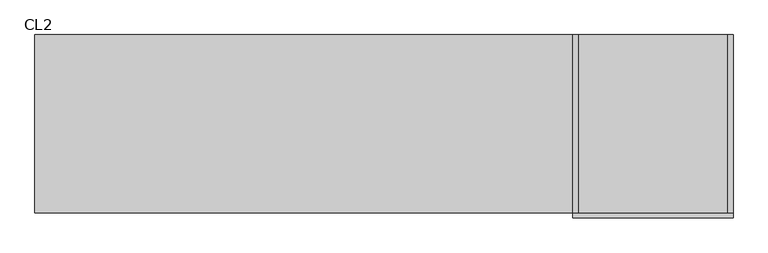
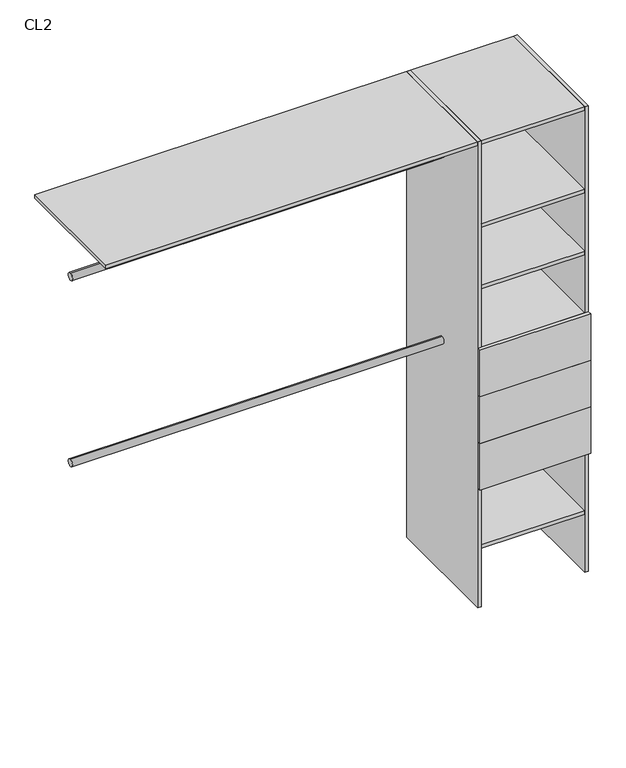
"""IFC4 building model written with IfcOpenShell, lengths in millimetres: furniture geometry, Closet 1estantes-1tubos_sin laterales : CL2."""

from ifc_helpers import new_model, si_unit, point, frame, frame_2d, origin, origin_with_axes, place, context, project, spatial, polyline, circle_curve, trimmed, segment, composite_curve, outline, extrude, source, transform, mapped, element, save


def cl2_fe4fb3f7(model_context):
    return source(origin(), model_context, "Body", "SweptSolid", [
        extrude(outline(polyline([(225.0, 100.0), (210.0, 100.0), (210.0, 600.0), (225.0, 600.0), (225.0, 100.0)])), origin_with_axes(), (0.0, 0.0, 1.0), 2000.0),
        extrude(outline(polyline([(-210.0, 100.0), (-225.0, 100.0), (-225.0, 600.0), (-210.0, 600.0), (-210.0, 100.0)])), origin_with_axes(), (0.0, 0.0, 1.0), 2000.0),
        extrude(outline(polyline([(225.0, 100.0), (225.0, 85.0), (-225.0, 85.0), (-225.0, 100.0), (225.0, 100.0)])), frame((0.0, 0.0, 915.0), z_axis=(0.0, 0.0, 1.0), x_axis=(1.0, 0.0, 0.0)), (0.0, 0.0, 1.0), 200.0),
        extrude(outline(polyline([(225.0, 100.0), (225.0, 85.0), (-225.0, 85.0), (-225.0, 100.0), (225.0, 100.0)])), frame((0.0, 0.0, 715.0), z_axis=(0.0, 0.0, 1.0), x_axis=(1.0, 0.0, 0.0)), (0.0, 0.0, 1.0), 200.0),
        extrude(outline(polyline([(225.0, 100.0), (225.0, 85.0), (-225.0, 85.0), (-225.0, 100.0), (225.0, 100.0)])), frame((0.0, 0.0, 515.0), z_axis=(0.0, 0.0, 1.0), x_axis=(1.0, 0.0, 0.0)), (0.0, 0.0, 1.0), 200.0),
        extrude(outline(polyline([(210.0, 100.0), (-210.0, 100.0), (-210.0, 600.0), (210.0, 600.0), (210.0, 100.0)])), frame((0.0, 0.0, 1100.0), z_axis=(0.0, 0.0, 1.0), x_axis=(1.0, 0.0, 0.0)), (0.0, 0.0, 1.0), 15.0),
        extrude(outline(composite_curve([segment(trimmed(circle_curve(frame_2d((350.0, 1000.0)), 15.0), [point((350.0, 1015.0))], [point((350.0, 985.0))], False, "CARTESIAN"), True, "CONTINUOUS"), segment(trimmed(circle_curve(frame_2d((350.0, 1000.0)), 15.0), [point((350.0, 985.0))], [point((350.0, 1015.0))], False, "CARTESIAN"), True, "CONTINUOUS")], self_intersect=False)), frame((-1735.0, 0.0, 0.0), z_axis=(1.0, 0.0, 0.0), x_axis=(0.0, 1.0, 0.0)), (0.0, 0.0, 1.0), 1510.0),
        extrude(outline(composite_curve([segment(trimmed(circle_curve(frame_2d((350.0, 1800.0)), 15.0), [point((350.0, 1815.0))], [point((350.0, 1785.0))], False, "CARTESIAN"), True, "CONTINUOUS"), segment(trimmed(circle_curve(frame_2d((350.0, 1800.0)), 15.0), [point((350.0, 1785.0))], [point((350.0, 1815.0))], False, "CARTESIAN"), True, "CONTINUOUS")], self_intersect=False)), frame((-1735.0, 0.0, 0.0), z_axis=(1.0, 0.0, 0.0), x_axis=(0.0, 1.0, 0.0)), (0.0, 0.0, 1.0), 1510.0),
        extrude(outline(polyline([(210.0, 100.0), (-210.0, 100.0), (-210.0, 600.0), (210.0, 600.0), (210.0, 100.0)])), frame((0.0, 0.0, 250.0), z_axis=(0.0, 0.0, 1.0), x_axis=(1.0, 0.0, 0.0)), (0.0, 0.0, 1.0), 15.0),
        extrude(outline(polyline([(210.0, 100.0), (-210.0, 100.0), (-210.0, 600.0), (210.0, 600.0), (210.0, 100.0)])), frame((0.0, 0.0, 515.0), z_axis=(0.0, 0.0, 1.0), x_axis=(1.0, 0.0, 0.0)), (0.0, 0.0, 1.0), 15.0),
        extrude(outline(polyline([(210.0, 100.0), (-210.0, 100.0), (-210.0, 600.0), (210.0, 600.0), (210.0, 100.0)])), frame((0.0, 0.0, 1365.0), z_axis=(0.0, 0.0, 1.0), x_axis=(1.0, 0.0, 0.0)), (0.0, 0.0, 1.0), 15.0),
        extrude(outline(polyline([(210.0, 100.0), (-210.0, 100.0), (-210.0, 600.0), (210.0, 600.0), (210.0, 100.0)])), frame((0.0, 0.0, 1630.0), z_axis=(0.0, 0.0, 1.0), x_axis=(1.0, 0.0, 0.0)), (0.0, 0.0, 1.0), 15.0),
        extrude(outline(polyline([(-210.0, 100.0), (-1735.0, 100.0), (-1735.0, 600.0), (-210.0, 600.0), (-210.0, 100.0)])), frame((0.0, 0.0, 1985.0), z_axis=(0.0, 0.0, 1.0), x_axis=(1.0, 0.0, 0.0)), (0.0, 0.0, 1.0), 15.0),
        extrude(outline(polyline([(210.0, 100.0), (-210.0, 100.0), (-210.0, 600.0), (210.0, 600.0), (210.0, 100.0)])), frame((0.0, 0.0, 1985.0), z_axis=(0.0, 0.0, 1.0), x_axis=(1.0, 0.0, 0.0)), (0.0, 0.0, 1.0), 15.0),
    ])


if __name__ == "__main__":
    model = new_model("IFC4")
    model_context = context("Model", 3, world=origin())
    ifc_project = project(units=[si_unit("LENGTHUNIT", "METRE", prefix="MILLI")], contexts=[model_context])
    site = spatial("IfcSite", under=ifc_project)
    building = spatial("IfcBuilding", under=site)
    placement = place(None, origin())
    cl2_shape = cl2_fe4fb3f7(model_context)
    element("IfcFurniture", 1, ObjectType="Closet 1estantes-1tubos_sin laterales : CL2", at=placement, inside=building, context=model_context, shape_type="MappedRepresentation", body=[
        mapped(cl2_shape, transform((0.0, 0.0, 0.0), x_axis=(1.0, 0.0, 0.0), y_axis=(0.0, 1.0, 0.0), z_axis=(0.0, 0.0, 1.0))),
    ])
    save(model, "model.ifc")
